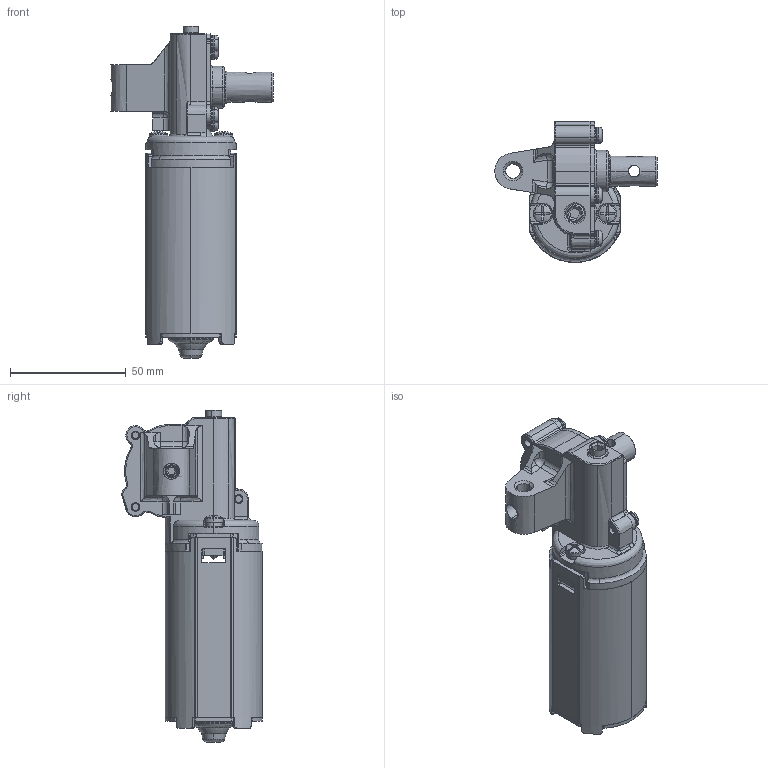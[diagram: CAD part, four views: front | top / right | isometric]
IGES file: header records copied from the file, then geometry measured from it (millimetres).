
Global section: file name: No Iges File Name specified; native system: AutoDesk Inventor R9; preprocessor: AutoDesk Inventor Iges Exporter R9; author: No Author specified; organization: No Organization specified; date: 20041027.135145; units: millimetre
Bounding box: 70.1 x 60.8 x 143.45 mm (x, y, z)
Surface area: 54528.2 mm2 (no closed solid volume)
Topology: 0 solids, 0 shells, 1588 faces, 8306 edges, 8298 vertices
Faces by surface type: revolution 763, plane 458, bspline 367
